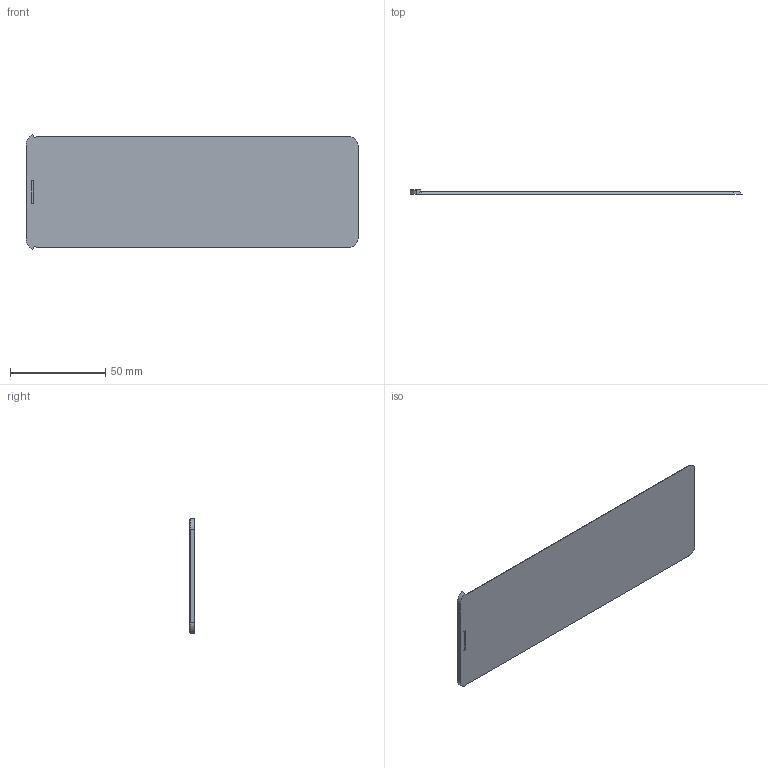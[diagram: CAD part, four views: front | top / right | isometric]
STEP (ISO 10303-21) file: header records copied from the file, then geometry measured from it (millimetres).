
FILE_DESCRIPTION(/* description */ (''),/* implementation_level */ '2;1');
FILE_NAME(/* name */ 'Cutlery F4 v29 - LID.step',/* time_stamp */ '2023-10-27T09:33:13+11:00',/* author */ (''),/* organization */ (''),/* preprocessor_version */ 'ST-DEVELOPER v20',/* originating_system */ 'Autodesk Translation Framework v12.14.0.127',/* authorisation */ '');
FILE_SCHEMA (('AUTOMOTIVE_DESIGN { 1 0 10303 214 3 1 1 }'));
Length unit declared in the file: millimetre
Products named in the file (3): Cutlery F4; Lid; Chevron
Assembly tree (2 placements, depth 3):
  Cutlery F4
    Lid
      Chevron
Bounding box: 174.5 x 2.5 x 60.02 mm (x, y, z)
Volume: 14996.4 mm3; surface area: 20847.3 mm2
Topology: 3 solids, 3 shells, 47 faces, 116 edges, 76 vertices
Faces by surface type: plane 34, cone 8, cylinder 5
Entity records: 1449 total; most frequent: CARTESIAN_POINT 272, ORIENTED_EDGE 232, DIRECTION 230, EDGE_CURVE 116, LINE 82, VECTOR 82, VERTEX_POINT 76, AXIS2_PLACEMENT_3D 74
